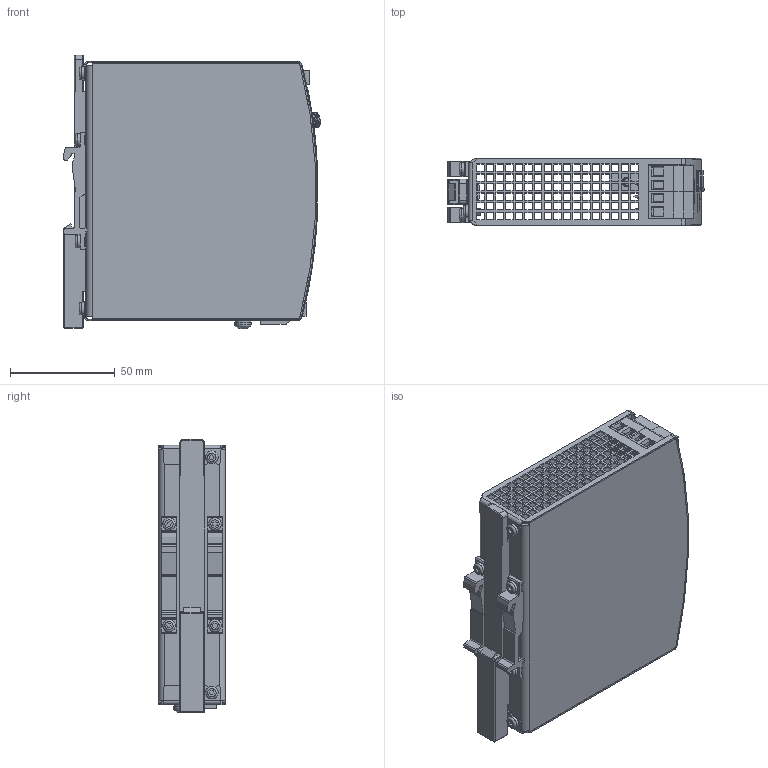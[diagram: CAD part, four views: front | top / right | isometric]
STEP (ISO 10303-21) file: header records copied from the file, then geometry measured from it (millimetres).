
FILE_DESCRIPTION((''),'2;1');
FILE_NAME('C:\Users\rahns\Desktop\Marketing\SD1CS5-241-S1SR1_SC_2014-07-03.stp','2014-07-03T07:15:40',('rahns'),(''),'Autodesk Inventor 2009','Autodesk Inventor 2009','');
FILE_SCHEMA(('AUTOMOTIVE_DESIGN { 1 0 10303 214 1 1 1 1 }'));
Length unit declared in the file: millimetre
Products named in the file (13): 365; HOUSING BODY 365; HOUSING COVER 365; SCREW 3x6; T HOLDER; SLIDER; WASHER 4; SCREW 4x8; POTENTIOMETER COVER; LED GN; TERMINAL 2P R6,35 T; TERMINAL 3POL R6,35 SCREW; FRONTFOIL 365
Assembly tree (19 placements, depth 2):
  365
    HOUSING BODY 365
    HOUSING COVER 365
    SCREW 3x6  x6
    T HOLDER  x2
    SLIDER
    WASHER 4
    SCREW 4x8
    POTENTIOMETER COVER
    LED GN
    TERMINAL 2P R6,35 T  x2
    TERMINAL 3POL R6,35 SCREW
    FRONTFOIL 365
Bounding box: 122.63 x 32 x 130.77 mm (x, y, z)
Volume: 75286.4 mm3; surface area: 99858 mm2
Topology: 19 solids, 19 shells, 2162 faces, 5956 edges, 3932 vertices
Faces by surface type: plane 1648, bspline 228, cylinder 227, torus 26, cone 20, sphere 13
Full cylindrical faces by diameter (mm): 0.05 x4, 2.45 x2, 3 x6, 3.1 x4, 3.621 x1, 4 x1, 4.2 x1, 4.355 x1, 4.5 x1, 4.6 x1, 4.9 x1, 5.15 x7, 6 x6
Entity records: 71630 total; most frequent: CARTESIAN_POINT 20369, ORIENTED_EDGE 10770, DIRECTION 9058, EDGE_CURVE 5385, VECTOR 4208, LINE 4208, VERTEX_POINT 3567, EDGE_LOOP 2494
